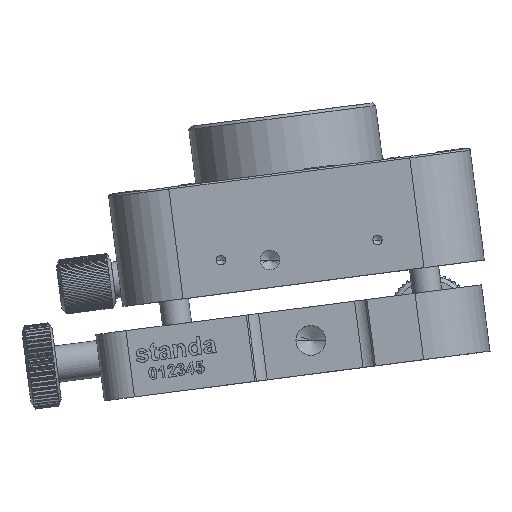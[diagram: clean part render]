
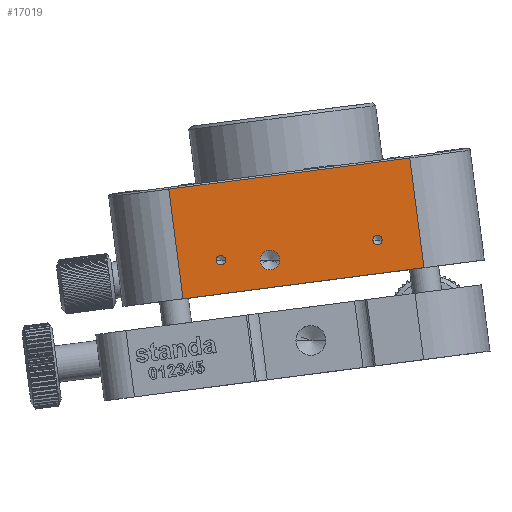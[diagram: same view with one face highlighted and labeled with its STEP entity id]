
A CAD part, left-side view. The second image highlights one B-rep face of the part: STEP entity #17019.
In plain terms, the highlighted planar face has unit normal (-1, 0.001, 0).
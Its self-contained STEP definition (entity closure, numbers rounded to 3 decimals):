
#13824 = CIRCLE ( 'NONE', #13877, 1.621 ) ;
#13833 = DIRECTION ( 'NONE',  ( 0., -1., 0. ) ) ;
#13834 = DIRECTION ( 'NONE',  ( 1., 0., 0. ) ) ;
#13835 = CARTESIAN_POINT ( 'NONE',  ( -122.752, -8.646, 29.02 ) ) ;
#13836 = AXIS2_PLACEMENT_3D ( 'NONE', #13835, #13834, #13833 ) ;
#13841 = CIRCLE ( 'NONE', #13836, 0.783 ) ;
#13844 = DIRECTION ( 'NONE',  ( 0., -1., 0. ) ) ;
#13845 = DIRECTION ( 'NONE',  ( 1., 0., 0. ) ) ;
#13846 = CARTESIAN_POINT ( 'NONE',  ( -122.741, 17.14, 25.693 ) ) ;
#13847 = AXIS2_PLACEMENT_3D ( 'NONE', #13846, #13845, #13844 ) ;
#13848 = CIRCLE ( 'NONE', #13847, 0.783 ) ;
#13874 = DIRECTION ( 'NONE',  ( 0., -1., 0. ) ) ;
#13875 = DIRECTION ( 'NONE',  ( 1., 0., 0. ) ) ;
#13876 = CARTESIAN_POINT ( 'NONE',  ( -122.745, 9.078, 25.725 ) ) ;
#13877 = AXIS2_PLACEMENT_3D ( 'NONE', #13876, #13875, #13874 ) ;
#14051 = CARTESIAN_POINT ( 'NONE',  ( -122.757, -16.293, 24.461 ) ) ;
#14052 = DIRECTION ( 'NONE',  ( 0., -0.128, -0.992 ) ) ;
#14053 = VECTOR ( 'NONE', #14052, 1000. ) ;
#14054 = CARTESIAN_POINT ( 'NONE',  ( -122.75, -14.117, 41.321 ) ) ;
#14055 = LINE ( 'NONE', #14054, #14053 ) ;
#14056 = DIRECTION ( 'NONE',  ( 0., -1., 0. ) ) ;
#14057 = DIRECTION ( 'NONE',  ( -1., 0., 0. ) ) ;
#14058 = CARTESIAN_POINT ( 'NONE',  ( -122.729, 35.472, 34.924 ) ) ;
#14059 = AXIS2_PLACEMENT_3D ( 'NONE', #14058, #14057, #14056 ) ;
#14060 = PLANE ( 'NONE',  #14059 ) ;
#14061 = FACE_BOUND ( 'NONE', #17008, .T. ) ;
#14062 = FACE_BOUND ( 'NONE', #17005, .T. ) ;
#14063 = FACE_BOUND ( 'NONE', #17002, .T. ) ;
#14064 = FACE_OUTER_BOUND ( 'NONE', #17020, .T. ) ;
#14107 = VECTOR ( 'NONE', #14173, 1000. ) ;
#14108 = CARTESIAN_POINT ( 'NONE',  ( -122.74, 23.379, 19.343 ) ) ;
#14109 = LINE ( 'NONE', #14108, #14107 ) ;
#14173 = DIRECTION ( 'NONE',  ( 0., -0.992, 0.128 ) ) ;
#16860 = EDGE_CURVE ( 'NONE', #22698, #22718, #13848, .T. ) ;
#16867 = EDGE_CURVE ( 'NONE', #22783, #22744, #13841, .T. ) ;
#16879 = EDGE_CURVE ( 'NONE', #22677, #22682, #13824, .T. ) ;
#17002 = EDGE_LOOP ( 'NONE', ( #17003, #17004 ) ) ;
#17003 = ORIENTED_EDGE ( 'NONE', *, *, #22742, .T. ) ;
#17004 = ORIENTED_EDGE ( 'NONE', *, *, #16867, .T. ) ;
#17005 = EDGE_LOOP ( 'NONE', ( #17006, #17007 ) ) ;
#17006 = ORIENTED_EDGE ( 'NONE', *, *, #22717, .T. ) ;
#17007 = ORIENTED_EDGE ( 'NONE', *, *, #16860, .T. ) ;
#17008 = EDGE_LOOP ( 'NONE', ( #17009, #17010 ) ) ;
#17009 = ORIENTED_EDGE ( 'NONE', *, *, #22681, .T. ) ;
#17010 = ORIENTED_EDGE ( 'NONE', *, *, #16879, .T. ) ;
#17019 = ADVANCED_FACE ( 'NONE', ( #14064, #14063, #14062, #14061 ), #14060, .T. ) ;
#17020 = EDGE_LOOP ( 'NONE', ( #17021, #17024, #17025, #17026 ) ) ;
#17021 = ORIENTED_EDGE ( 'NONE', *, *, #17022, .F. ) ;
#17022 = EDGE_CURVE ( 'NONE', #22584, #17023, #14055, .T. ) ;
#17023 = VERTEX_POINT ( 'NONE', #14051 ) ;
#17024 = ORIENTED_EDGE ( 'NONE', *, *, #22659, .T. ) ;
#17025 = ORIENTED_EDGE ( 'NONE', *, *, #22003, .T. ) ;
#17026 = ORIENTED_EDGE ( 'NONE', *, *, #17080, .T. ) ;
#17080 = EDGE_CURVE ( 'NONE', #21986, #17023, #14109, .T. ) ;
#21986 = VERTEX_POINT ( 'NONE', #28900 ) ;
#21990 = VERTEX_POINT ( 'NONE', #28893 ) ;
#22003 = EDGE_CURVE ( 'NONE', #21990, #21986, #28932, .T. ) ;
#22584 = VERTEX_POINT ( 'NONE', #29859 ) ;
#22659 = EDGE_CURVE ( 'NONE', #22584, #21990, #30013, .T. ) ;
#22677 = VERTEX_POINT ( 'NONE', #30034 ) ;
#22681 = EDGE_CURVE ( 'NONE', #22682, #22677, #30090, .T. ) ;
#22682 = VERTEX_POINT ( 'NONE', #30085 ) ;
#22698 = VERTEX_POINT ( 'NONE', #30117 ) ;
#22717 = EDGE_CURVE ( 'NONE', #22718, #22698, #30130, .T. ) ;
#22718 = VERTEX_POINT ( 'NONE', #30125 ) ;
#22742 = EDGE_CURVE ( 'NONE', #22744, #22783, #30210, .T. ) ;
#22744 = VERTEX_POINT ( 'NONE', #30205 ) ;
#22783 = VERTEX_POINT ( 'NONE', #30217 ) ;
#28893 = CARTESIAN_POINT ( 'NONE',  ( -122.733, 25.707, 37.393 ) ) ;
#28900 = CARTESIAN_POINT ( 'NONE',  ( -122.74, 23.379, 19.343 ) ) ;
#28929 = DIRECTION ( 'NONE',  ( 0., -0.128, -0.992 ) ) ;
#28930 = VECTOR ( 'NONE', #28929, 1000. ) ;
#28931 = CARTESIAN_POINT ( 'NONE',  ( -122.733, 25.707, 37.393 ) ) ;
#28932 = LINE ( 'NONE', #28931, #28930 ) ;
#29859 = CARTESIAN_POINT ( 'NONE',  ( -122.749, -13.964, 42.511 ) ) ;
#30010 = DIRECTION ( 'NONE',  ( 0., 0.992, -0.128 ) ) ;
#30011 = VECTOR ( 'NONE', #30010, 1000. ) ;
#30012 = CARTESIAN_POINT ( 'NONE',  ( -122.749, -13.964, 42.511 ) ) ;
#30013 = LINE ( 'NONE', #30012, #30011 ) ;
#30034 = CARTESIAN_POINT ( 'NONE',  ( -122.744, 10.699, 25.725 ) ) ;
#30085 = CARTESIAN_POINT ( 'NONE',  ( -122.745, 7.457, 25.725 ) ) ;
#30086 = DIRECTION ( 'NONE',  ( 0., -1., 0. ) ) ;
#30087 = DIRECTION ( 'NONE',  ( 1., 0., 0. ) ) ;
#30088 = CARTESIAN_POINT ( 'NONE',  ( -122.745, 9.078, 25.725 ) ) ;
#30089 = AXIS2_PLACEMENT_3D ( 'NONE', #30088, #30087, #30086 ) ;
#30090 = CIRCLE ( 'NONE', #30089, 1.621 ) ;
#30117 = CARTESIAN_POINT ( 'NONE',  ( -122.74, 17.923, 25.693 ) ) ;
#30125 = CARTESIAN_POINT ( 'NONE',  ( -122.741, 16.356, 25.693 ) ) ;
#30126 = DIRECTION ( 'NONE',  ( 0., -1., 0. ) ) ;
#30127 = DIRECTION ( 'NONE',  ( 1., 0., 0. ) ) ;
#30128 = CARTESIAN_POINT ( 'NONE',  ( -122.741, 17.14, 25.693 ) ) ;
#30129 = AXIS2_PLACEMENT_3D ( 'NONE', #30128, #30127, #30126 ) ;
#30130 = CIRCLE ( 'NONE', #30129, 0.783 ) ;
#30205 = CARTESIAN_POINT ( 'NONE',  ( -122.752, -9.43, 29.02 ) ) ;
#30206 = DIRECTION ( 'NONE',  ( 0., -1., 0. ) ) ;
#30207 = DIRECTION ( 'NONE',  ( 1., 0., 0. ) ) ;
#30208 = CARTESIAN_POINT ( 'NONE',  ( -122.752, -8.646, 29.02 ) ) ;
#30209 = AXIS2_PLACEMENT_3D ( 'NONE', #30208, #30207, #30206 ) ;
#30210 = CIRCLE ( 'NONE', #30209, 0.783 ) ;
#30217 = CARTESIAN_POINT ( 'NONE',  ( -122.751, -7.863, 29.02 ) ) ;
